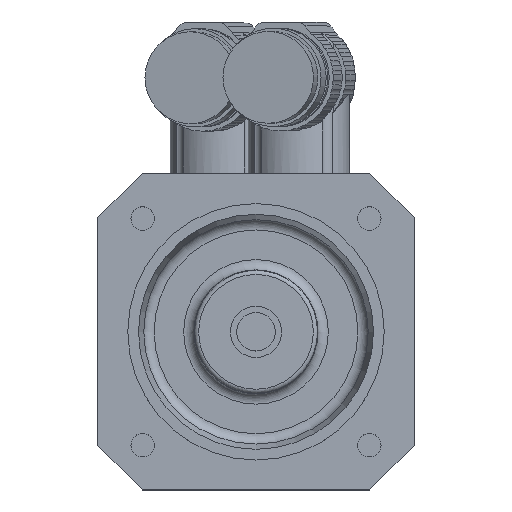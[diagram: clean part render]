
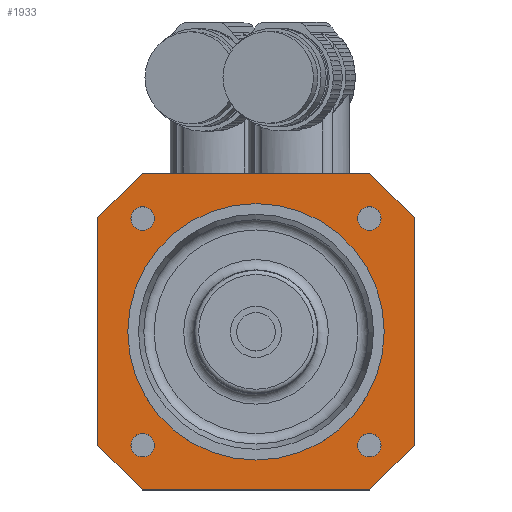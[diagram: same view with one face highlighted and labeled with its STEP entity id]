
A CAD part, top view. The second image highlights one B-rep face of the part: STEP entity #1933.
In plain terms, the highlighted planar face has unit normal (0, 0, 1).
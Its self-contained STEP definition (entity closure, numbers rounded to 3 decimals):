
#747=FACE_BOUND('',#3055,.T.);
#748=FACE_BOUND('',#3056,.T.);
#749=FACE_BOUND('',#3057,.T.);
#750=FACE_BOUND('',#3058,.T.);
#751=FACE_BOUND('',#3060,.T.);
#1472=CIRCLE('',#9851,2.75);
#1473=CIRCLE('',#9852,2.75);
#1474=CIRCLE('',#9853,2.75);
#1475=CIRCLE('',#9854,2.75);
#1476=CIRCLE('',#9855,30.);
#1933=ADVANCED_FACE('',(#747,#748,#749,#750,#2563,#751),#2115,.T.);
#2115=PLANE('',#9856);
#2563=FACE_OUTER_BOUND('',#3059,.T.);
#3055=EDGE_LOOP('',(#5473));
#3056=EDGE_LOOP('',(#5474));
#3057=EDGE_LOOP('',(#5475));
#3058=EDGE_LOOP('',(#5476));
#3059=EDGE_LOOP('',(#5477,#5478,#5479,#5480,#5481,#5482,#5483,#5484));
#3060=EDGE_LOOP('',(#5485));
#5473=ORIENTED_EDGE('',*,*,#7679,.F.);
#5474=ORIENTED_EDGE('',*,*,#7680,.F.);
#5475=ORIENTED_EDGE('',*,*,#7681,.F.);
#5476=ORIENTED_EDGE('',*,*,#7682,.F.);
#5477=ORIENTED_EDGE('',*,*,#7683,.F.);
#5478=ORIENTED_EDGE('',*,*,#7684,.F.);
#5479=ORIENTED_EDGE('',*,*,#7685,.F.);
#5480=ORIENTED_EDGE('',*,*,#7686,.F.);
#5481=ORIENTED_EDGE('',*,*,#7687,.F.);
#5482=ORIENTED_EDGE('',*,*,#7688,.F.);
#5483=ORIENTED_EDGE('',*,*,#7689,.F.);
#5484=ORIENTED_EDGE('',*,*,#7690,.F.);
#5485=ORIENTED_EDGE('',*,*,#7691,.F.);
#6436=VERTEX_POINT('',#15943);
#6437=VERTEX_POINT('',#15945);
#6438=VERTEX_POINT('',#15947);
#6439=VERTEX_POINT('',#15949);
#6440=VERTEX_POINT('',#15951);
#6441=VERTEX_POINT('',#15952);
#6442=VERTEX_POINT('',#15954);
#6443=VERTEX_POINT('',#15956);
#6444=VERTEX_POINT('',#15958);
#6445=VERTEX_POINT('',#15960);
#6446=VERTEX_POINT('',#15962);
#6447=VERTEX_POINT('',#15964);
#6448=VERTEX_POINT('',#15967);
#7679=EDGE_CURVE('',#6436,#6436,#1472,.T.);
#7680=EDGE_CURVE('',#6437,#6437,#1473,.T.);
#7681=EDGE_CURVE('',#6438,#6438,#1474,.T.);
#7682=EDGE_CURVE('',#6439,#6439,#1475,.T.);
#7683=EDGE_CURVE('',#6440,#6441,#8320,.T.);
#7684=EDGE_CURVE('',#6442,#6440,#8321,.T.);
#7685=EDGE_CURVE('',#6443,#6442,#8322,.T.);
#7686=EDGE_CURVE('',#6444,#6443,#8323,.T.);
#7687=EDGE_CURVE('',#6445,#6444,#8324,.T.);
#7688=EDGE_CURVE('',#6446,#6445,#8325,.T.);
#7689=EDGE_CURVE('',#6447,#6446,#8326,.T.);
#7690=EDGE_CURVE('',#6441,#6447,#8327,.T.);
#7691=EDGE_CURVE('',#6448,#6448,#1476,.T.);
#8320=LINE('',#15950,#8930);
#8321=LINE('',#15953,#8931);
#8322=LINE('',#15955,#8932);
#8323=LINE('',#15957,#8933);
#8324=LINE('',#15959,#8934);
#8325=LINE('',#15961,#8935);
#8326=LINE('',#15963,#8936);
#8327=LINE('',#15965,#8937);
#8930=VECTOR('',#12200,1.);
#8931=VECTOR('',#12201,1.);
#8932=VECTOR('',#12202,1.);
#8933=VECTOR('',#12203,1.);
#8934=VECTOR('',#12204,1.);
#8935=VECTOR('',#12205,1.);
#8936=VECTOR('',#12206,1.);
#8937=VECTOR('',#12207,1.);
#9851=AXIS2_PLACEMENT_3D('',#15942,#12192,#12193);
#9852=AXIS2_PLACEMENT_3D('',#15944,#12194,#12195);
#9853=AXIS2_PLACEMENT_3D('',#15946,#12196,#12197);
#9854=AXIS2_PLACEMENT_3D('',#15948,#12198,#12199);
#9855=AXIS2_PLACEMENT_3D('',#15966,#12208,#12209);
#9856=AXIS2_PLACEMENT_3D('',#15968,#12210,#12211);
#12192=DIRECTION('',(0.,0.,1.));
#12193=DIRECTION('',(1.,0.,0.));
#12194=DIRECTION('',(0.,0.,1.));
#12195=DIRECTION('',(1.,0.,0.));
#12196=DIRECTION('',(0.,0.,1.));
#12197=DIRECTION('',(1.,0.,0.));
#12198=DIRECTION('',(0.,0.,1.));
#12199=DIRECTION('',(1.,0.,0.));
#12200=DIRECTION('',(-0.707,-0.707,0.));
#12201=DIRECTION('',(0.,-1.,0.));
#12202=DIRECTION('',(0.707,-0.707,0.));
#12203=DIRECTION('',(1.,0.,0.));
#12204=DIRECTION('',(0.707,0.707,0.));
#12205=DIRECTION('',(0.,1.,0.));
#12206=DIRECTION('',(-0.707,0.707,0.));
#12207=DIRECTION('',(-1.,0.,0.));
#12208=DIRECTION('',(0.,0.,1.));
#12209=DIRECTION('',(1.,0.,0.));
#12210=DIRECTION('',(0.,0.,1.));
#12211=DIRECTION('',(1.,0.,0.));
#15942=CARTESIAN_POINT('',(26.517,-26.517,-2.5));
#15943=CARTESIAN_POINT('',(29.267,-26.517,-2.5));
#15944=CARTESIAN_POINT('',(-26.517,-26.517,-2.5));
#15945=CARTESIAN_POINT('',(-23.767,-26.517,-2.5));
#15946=CARTESIAN_POINT('',(-26.517,26.517,-2.5));
#15947=CARTESIAN_POINT('',(-23.767,26.517,-2.5));
#15948=CARTESIAN_POINT('',(26.517,26.517,-2.5));
#15949=CARTESIAN_POINT('',(29.267,26.517,-2.5));
#15950=CARTESIAN_POINT('',(38.891,-24.749,-2.5));
#15951=CARTESIAN_POINT('',(37.,-26.64,-2.5));
#15952=CARTESIAN_POINT('',(26.64,-37.,-2.5));
#15953=CARTESIAN_POINT('',(37.,0.,-2.5));
#15954=CARTESIAN_POINT('',(37.,26.64,-2.5));
#15955=CARTESIAN_POINT('',(24.749,38.891,-2.5));
#15956=CARTESIAN_POINT('',(26.64,37.,-2.5));
#15957=CARTESIAN_POINT('',(0.,37.,-2.5));
#15958=CARTESIAN_POINT('',(-26.64,37.,-2.5));
#15959=CARTESIAN_POINT('',(-38.891,24.749,-2.5));
#15960=CARTESIAN_POINT('',(-37.,26.64,-2.5));
#15961=CARTESIAN_POINT('',(-37.,0.,-2.5));
#15962=CARTESIAN_POINT('',(-37.,-26.64,-2.5));
#15963=CARTESIAN_POINT('',(-24.749,-38.891,-2.5));
#15964=CARTESIAN_POINT('',(-26.64,-37.,-2.5));
#15965=CARTESIAN_POINT('',(0.,-37.,-2.5));
#15966=CARTESIAN_POINT('',(0.,0.,-2.5));
#15967=CARTESIAN_POINT('',(30.,0.,-2.5));
#15968=CARTESIAN_POINT('',(0.,0.,-2.5));
